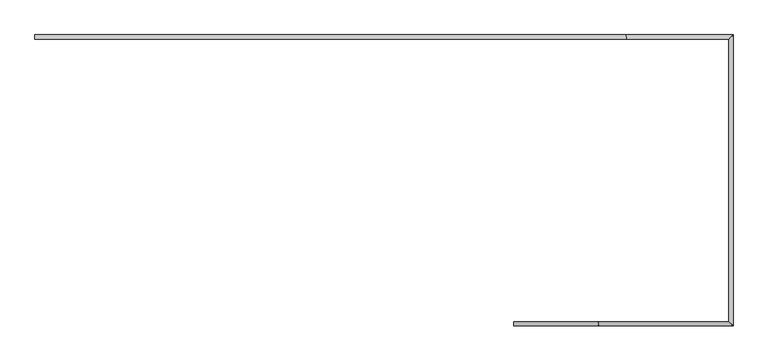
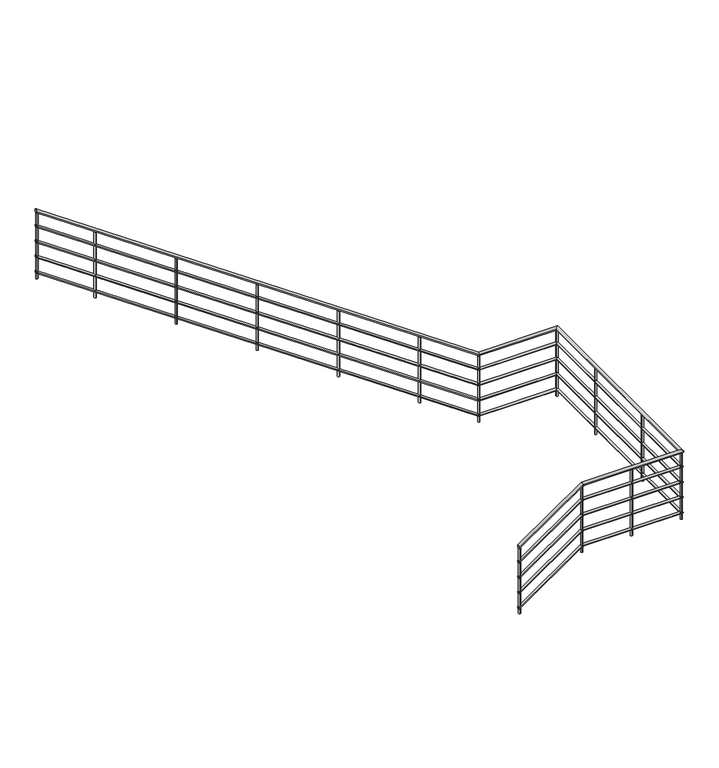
"""IFC4 building model written with IfcOpenShell, lengths in millimetres: railing geometry, r パイプ H900."""

from ifc_helpers import new_model, si_unit, point, frame, frame_2d, origin, place, context, project, spatial, circle_curve, ellipse_curve, trimmed, segment, composite_curve, outline, extrude, source, transform, mapped, element, save
from ifc_brep_helpers import plane_surface, cylinder_surface, advanced_brep


def railing_1d44057c(model_context):
    return source(origin(), model_context, "Body", "SolidModel", [
        advanced_brep(
        [(-1975.9784025, 7544.6868987, 1155.6747872), (-1975.9784025, 7504.6868987, 1155.6747872), (-1189.7308729, 7544.6868987, 1700.0), (-1189.7308729, 7504.6868987, 1700.0), (9.0215975, 7544.6868987, 1700.0), (49.0215975, 7504.6868987, 1700.0), (9.0215975, 10154.6868987, 1700.0), (49.0215975, 10194.6868987, 1700.0), (-942.2259321, 10154.6868987, 1700.0), (-942.2259321, 10194.6868987, 1700.0), (-6395.9784025, 10154.6868987, 5475.6747872), (-6395.9784025, 10194.6868987, 5475.6747872)],
        [
            (0, 1, ellipse_curve(frame((-1975.9784025, 7524.6868987, 1155.6747872), z_axis=(-1.0, 0.0, 0.0), x_axis=(0.0, 0.0, -1.0)), 24.3252128, 20.0)),
            (1, 0, ellipse_curve(frame((-1975.9784025, 7524.6868987, 1155.6747872), z_axis=(-1.0, 0.0, 0.0), x_axis=(0.0, 0.0, -1.0)), 24.3252128, 20.0)),
            (0, 2),
            (2, 3, ellipse_curve(frame((-1189.7308729, 7524.6868987, 1700.0), z_axis=(-0.9545135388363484, 0.0, -0.2981675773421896), x_axis=(0.2981675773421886, 0.0, -0.9545135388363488)), 20.9530815, 20.0)),
            (3, 1),
            (3, 2, ellipse_curve(frame((-1189.7308729, 7524.6868987, 1700.0), z_axis=(-0.9545135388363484, 0.0, -0.2981675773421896), x_axis=(0.2981675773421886, 0.0, -0.9545135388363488)), 20.9530815, 20.0)),
            (2, 4),
            (4, 5, ellipse_curve(frame((29.0215975, 7524.6868987, 1700.0), z_axis=(-0.7071067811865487, -0.7071067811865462, 0.0), x_axis=(-0.7071067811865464, 0.7071067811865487, 0.0)), 28.2842712, 20.0)),
            (5, 3),
            (5, 4, ellipse_curve(frame((29.0215975, 7524.6868987, 1700.0), z_axis=(-0.7071067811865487, -0.7071067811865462, 0.0), x_axis=(-0.7071067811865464, 0.7071067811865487, 0.0)), 28.2842712, 20.0)),
            (4, 6),
            (6, 7, ellipse_curve(frame((29.0215975, 10174.6868987, 1700.0), z_axis=(0.7071067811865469, -0.707106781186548, 0.0), x_axis=(-0.7071067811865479, -0.7071067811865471, 0.0)), 28.2842712, 20.0)),
            (7, 5),
            (7, 6, ellipse_curve(frame((29.0215975, 10174.6868987, 1700.0), z_axis=(0.7071067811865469, -0.707106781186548, 0.0), x_axis=(-0.7071067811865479, -0.7071067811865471, 0.0)), 28.2842712, 20.0)),
            (6, 8),
            (8, 9, ellipse_curve(frame((-942.2259321, 10174.6868987, 1700.0), z_axis=(0.9545135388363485, 0.0, -0.2981675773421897), x_axis=(0.29816757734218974, 0.0, 0.9545135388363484)), 20.9530815, 20.0)),
            (9, 7),
            (9, 8, ellipse_curve(frame((-942.2259321, 10174.6868987, 1700.0), z_axis=(0.9545135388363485, 0.0, -0.2981675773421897), x_axis=(0.29816757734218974, 0.0, 0.9545135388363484)), 20.9530815, 20.0)),
            (10, 11, ellipse_curve(frame((-6395.9784025, 10174.6868987, 5475.6747872), z_axis=(-1.0, 0.0, 0.0), x_axis=(0.0, 0.0, -1.0)), 24.3252128, 20.0)),
            (11, 10, ellipse_curve(frame((-6395.9784025, 10174.6868987, 5475.6747872), z_axis=(-1.0, 0.0, 0.0), x_axis=(0.0, 0.0, -1.0)), 24.3252128, 20.0)),
            (8, 10),
            (11, 9),
        ],
        [
            plane_surface(frame((-1975.9784025, 7524.6868987, 1180.0), z_axis=(-1.0, 0.0, 0.0), x_axis=(0.0, 1.0, 0.0))),
            cylinder_surface(frame((-1964.5942029, 7524.6868987, 1163.5561562), z_axis=(-0.8221921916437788, 0.0, -0.5692099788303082), x_axis=(0.0, -1.0, 0.0)), 20.0),
            cylinder_surface(frame((-1195.9784025, 7524.6868987, 1700.0), z_axis=(-1.0, 0.0, 0.0), x_axis=(0.0, -1.0, 0.0)), 20.0),
            cylinder_surface(frame((29.0215975, 7524.6868987, 1700.0), z_axis=(0.0, -1.0, 0.0), x_axis=(1.0, 0.0, 0.0)), 20.0),
            cylinder_surface(frame((29.0215975, 10174.6868987, 1700.0), z_axis=(1.0, 0.0, 0.0), x_axis=(0.0, 1.0, 0.0)), 20.0),
            plane_surface(frame((-6395.9784025, 10174.6868987, 5500.0), z_axis=(-1.0, 0.0, 0.0), x_axis=(0.0, -1.0, 0.0))),
            cylinder_surface(frame((-947.3626021, 10174.6868987, 1703.5561562), z_axis=(0.8221921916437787, 0.0, -0.5692099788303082), x_axis=(0.0, 1.0, 0.0)), 20.0),
        ],
        [
            (0, [[1, 2]]),
            (1, [[-1, 3, 4, 5]]),
            (1, [[-2, -5, 6, -3]]),
            (2, [[-4, 7, 8, 9]]),
            (2, [[-6, -9, 10, -7]]),
            (3, [[-8, 11, 12, 13]]),
            (3, [[-10, -13, 14, -11]]),
            (4, [[-12, 15, 16, 17]]),
            (4, [[-14, -17, 18, -15]]),
            (5, [[19, 20]]),
            (6, [[-16, 21, -20, 22]]),
            (6, [[-18, -22, -19, -21]]),
        ],
    ),
        advanced_brep(
        [(-1975.9784025, 7539.6868987, 961.7560904), (-1975.9784025, 7509.6868987, 961.7560904), (-1191.2927553, 7539.6868987, 1505.0), (-1191.2927553, 7509.6868987, 1505.0), (14.0215975, 7539.6868987, 1505.0), (44.0215975, 7509.6868987, 1505.0), (14.0215975, 10159.6868987, 1505.0), (44.0215975, 10189.6868987, 1505.0), (-940.6640497, 10159.6868987, 1505.0), (-940.6640497, 10189.6868987, 1505.0), (-6395.9784025, 10159.6868987, 5281.7560904), (-6395.9784025, 10189.6868987, 5281.7560904)],
        [
            (0, 1, ellipse_curve(frame((-1975.9784025, 7524.6868987, 961.7560904), z_axis=(-1.0, 0.0, 0.0), x_axis=(0.0, 0.0, -1.0)), 18.2439096, 15.0)),
            (1, 0, ellipse_curve(frame((-1975.9784025, 7524.6868987, 961.7560904), z_axis=(-1.0, 0.0, 0.0), x_axis=(0.0, 0.0, -1.0)), 18.2439096, 15.0)),
            (0, 2),
            (2, 3, ellipse_curve(frame((-1191.2927553, 7524.6868987, 1505.0), z_axis=(-0.9545135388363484, 0.0, -0.2981675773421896), x_axis=(0.2981675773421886, 0.0, -0.9545135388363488)), 15.7148111, 15.0)),
            (3, 1),
            (3, 2, ellipse_curve(frame((-1191.2927553, 7524.6868987, 1505.0), z_axis=(-0.9545135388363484, 0.0, -0.2981675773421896), x_axis=(0.2981675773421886, 0.0, -0.9545135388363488)), 15.7148111, 15.0)),
            (2, 4),
            (4, 5, ellipse_curve(frame((29.0215975, 7524.6868987, 1505.0), z_axis=(-0.7071067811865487, -0.7071067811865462, 0.0), x_axis=(-0.7071067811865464, 0.7071067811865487, 0.0)), 21.2132034, 15.0)),
            (5, 3),
            (5, 4, ellipse_curve(frame((29.0215975, 7524.6868987, 1505.0), z_axis=(-0.7071067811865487, -0.7071067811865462, 0.0), x_axis=(-0.7071067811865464, 0.7071067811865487, 0.0)), 21.2132034, 15.0)),
            (4, 6),
            (6, 7, ellipse_curve(frame((29.0215975, 10174.6868987, 1505.0), z_axis=(0.7071067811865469, -0.707106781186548, 0.0), x_axis=(-0.7071067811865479, -0.7071067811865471, 0.0)), 21.2132034, 15.0)),
            (7, 5),
            (7, 6, ellipse_curve(frame((29.0215975, 10174.6868987, 1505.0), z_axis=(0.7071067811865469, -0.707106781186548, 0.0), x_axis=(-0.7071067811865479, -0.7071067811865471, 0.0)), 21.2132034, 15.0)),
            (6, 8),
            (8, 9, ellipse_curve(frame((-940.6640497, 10174.6868987, 1505.0), z_axis=(0.9545135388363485, 0.0, -0.2981675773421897), x_axis=(0.29816757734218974, 0.0, 0.9545135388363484)), 15.7148111, 15.0)),
            (9, 7),
            (9, 8, ellipse_curve(frame((-940.6640497, 10174.6868987, 1505.0), z_axis=(0.9545135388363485, 0.0, -0.2981675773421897), x_axis=(0.29816757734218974, 0.0, 0.9545135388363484)), 15.7148111, 15.0)),
            (10, 11, ellipse_curve(frame((-6395.9784025, 10174.6868987, 5281.7560904), z_axis=(-1.0, 0.0, 0.0), x_axis=(0.0, 0.0, -1.0)), 18.2439096, 15.0)),
            (11, 10, ellipse_curve(frame((-6395.9784025, 10174.6868987, 5281.7560904), z_axis=(-1.0, 0.0, 0.0), x_axis=(0.0, 0.0, -1.0)), 18.2439096, 15.0)),
            (8, 10),
            (11, 9),
        ],
        [
            plane_surface(frame((-1975.9784025, 7524.6868987, 980.0), z_axis=(-1.0, 0.0, 0.0), x_axis=(0.0, 1.0, 0.0))),
            cylinder_surface(frame((-1967.4402528, 7524.6868987, 967.6671171), z_axis=(-0.8221921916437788, 0.0, -0.5692099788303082), x_axis=(0.0, -1.0, 0.0)), 15.0),
            cylinder_surface(frame((-1195.9784025, 7524.6868987, 1505.0), z_axis=(-1.0, 0.0, 0.0), x_axis=(0.0, -1.0, 0.0)), 15.0),
            cylinder_surface(frame((29.0215975, 7524.6868987, 1505.0), z_axis=(0.0, -1.0, 0.0), x_axis=(1.0, 0.0, 0.0)), 15.0),
            cylinder_surface(frame((29.0215975, 10174.6868987, 1505.0), z_axis=(1.0, 0.0, 0.0), x_axis=(0.0, 1.0, 0.0)), 15.0),
            plane_surface(frame((-6395.9784025, 10174.6868987, 5300.0), z_axis=(-1.0, 0.0, 0.0), x_axis=(0.0, -1.0, 0.0))),
            cylinder_surface(frame((-944.5165522, 10174.6868987, 1507.6671171), z_axis=(0.8221921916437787, 0.0, -0.5692099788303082), x_axis=(0.0, 1.0, 0.0)), 15.0),
        ],
        [
            (0, [[1, 2]]),
            (1, [[-1, 3, 4, 5]]),
            (1, [[-2, -5, 6, -3]]),
            (2, [[-4, 7, 8, 9]]),
            (2, [[-6, -9, 10, -7]]),
            (3, [[-8, 11, 12, 13]]),
            (3, [[-10, -13, 14, -11]]),
            (4, [[-12, 15, 16, 17]]),
            (4, [[-14, -17, 18, -15]]),
            (5, [[19, 20]]),
            (6, [[-16, 21, -20, 22]]),
            (6, [[-18, -22, -19, -21]]),
        ],
    ),
        advanced_brep(
        [(-1975.9784025, 7539.6868987, 761.7560904), (-1975.9784025, 7509.6868987, 761.7560904), (-1191.2927553, 7539.6868987, 1305.0), (-1191.2927553, 7509.6868987, 1305.0), (14.0215975, 7539.6868987, 1305.0), (44.0215975, 7509.6868987, 1305.0), (14.0215975, 10159.6868987, 1305.0), (44.0215975, 10189.6868987, 1305.0), (-940.6640497, 10159.6868987, 1305.0), (-940.6640497, 10189.6868987, 1305.0), (-6395.9784025, 10159.6868987, 5081.7560904), (-6395.9784025, 10189.6868987, 5081.7560904)],
        [
            (0, 1, ellipse_curve(frame((-1975.9784025, 7524.6868987, 761.7560904), z_axis=(-1.0, 0.0, 0.0), x_axis=(0.0, 0.0, -1.0)), 18.2439096, 15.0)),
            (1, 0, ellipse_curve(frame((-1975.9784025, 7524.6868987, 761.7560904), z_axis=(-1.0, 0.0, 0.0), x_axis=(0.0, 0.0, -1.0)), 18.2439096, 15.0)),
            (0, 2),
            (2, 3, ellipse_curve(frame((-1191.2927553, 7524.6868987, 1305.0), z_axis=(-0.9545135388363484, 0.0, -0.2981675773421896), x_axis=(0.2981675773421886, 0.0, -0.9545135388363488)), 15.7148111, 15.0)),
            (3, 1),
            (3, 2, ellipse_curve(frame((-1191.2927553, 7524.6868987, 1305.0), z_axis=(-0.9545135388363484, 0.0, -0.2981675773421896), x_axis=(0.2981675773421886, 0.0, -0.9545135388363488)), 15.7148111, 15.0)),
            (2, 4),
            (4, 5, ellipse_curve(frame((29.0215975, 7524.6868987, 1305.0), z_axis=(-0.7071067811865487, -0.7071067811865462, 0.0), x_axis=(-0.7071067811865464, 0.7071067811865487, 0.0)), 21.2132034, 15.0)),
            (5, 3),
            (5, 4, ellipse_curve(frame((29.0215975, 7524.6868987, 1305.0), z_axis=(-0.7071067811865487, -0.7071067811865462, 0.0), x_axis=(-0.7071067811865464, 0.7071067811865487, 0.0)), 21.2132034, 15.0)),
            (4, 6),
            (6, 7, ellipse_curve(frame((29.0215975, 10174.6868987, 1305.0), z_axis=(0.7071067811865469, -0.707106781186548, 0.0), x_axis=(-0.7071067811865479, -0.7071067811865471, 0.0)), 21.2132034, 15.0)),
            (7, 5),
            (7, 6, ellipse_curve(frame((29.0215975, 10174.6868987, 1305.0), z_axis=(0.7071067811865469, -0.707106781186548, 0.0), x_axis=(-0.7071067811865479, -0.7071067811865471, 0.0)), 21.2132034, 15.0)),
            (6, 8),
            (8, 9, ellipse_curve(frame((-940.6640497, 10174.6868987, 1305.0), z_axis=(0.9545135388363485, 0.0, -0.2981675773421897), x_axis=(0.29816757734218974, 0.0, 0.9545135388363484)), 15.7148111, 15.0)),
            (9, 7),
            (9, 8, ellipse_curve(frame((-940.6640497, 10174.6868987, 1305.0), z_axis=(0.9545135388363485, 0.0, -0.2981675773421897), x_axis=(0.29816757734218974, 0.0, 0.9545135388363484)), 15.7148111, 15.0)),
            (10, 11, ellipse_curve(frame((-6395.9784025, 10174.6868987, 5081.7560904), z_axis=(-1.0, 0.0, 0.0), x_axis=(0.0, 0.0, -1.0)), 18.2439096, 15.0)),
            (11, 10, ellipse_curve(frame((-6395.9784025, 10174.6868987, 5081.7560904), z_axis=(-1.0, 0.0, 0.0), x_axis=(0.0, 0.0, -1.0)), 18.2439096, 15.0)),
            (8, 10),
            (11, 9),
        ],
        [
            plane_surface(frame((-1975.9784025, 7524.6868987, 780.0), z_axis=(-1.0, 0.0, 0.0), x_axis=(0.0, 1.0, 0.0))),
            cylinder_surface(frame((-1967.4402528, 7524.6868987, 767.6671171), z_axis=(-0.8221921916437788, 0.0, -0.5692099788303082), x_axis=(0.0, -1.0, 0.0)), 15.0),
            cylinder_surface(frame((-1195.9784025, 7524.6868987, 1305.0), z_axis=(-1.0, 0.0, 0.0), x_axis=(0.0, -1.0, 0.0)), 15.0),
            cylinder_surface(frame((29.0215975, 7524.6868987, 1305.0), z_axis=(0.0, -1.0, 0.0), x_axis=(1.0, 0.0, 0.0)), 15.0),
            cylinder_surface(frame((29.0215975, 10174.6868987, 1305.0), z_axis=(1.0, 0.0, 0.0), x_axis=(0.0, 1.0, 0.0)), 15.0),
            plane_surface(frame((-6395.9784025, 10174.6868987, 5100.0), z_axis=(-1.0, 0.0, 0.0), x_axis=(0.0, -1.0, 0.0))),
            cylinder_surface(frame((-944.5165522, 10174.6868987, 1307.6671171), z_axis=(0.8221921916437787, 0.0, -0.5692099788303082), x_axis=(0.0, 1.0, 0.0)), 15.0),
        ],
        [
            (0, [[1, 2]]),
            (1, [[-1, 3, 4, 5]]),
            (1, [[-2, -5, 6, -3]]),
            (2, [[-4, 7, 8, 9]]),
            (2, [[-6, -9, 10, -7]]),
            (3, [[-8, 11, 12, 13]]),
            (3, [[-10, -13, 14, -11]]),
            (4, [[-12, 15, 16, 17]]),
            (4, [[-14, -17, 18, -15]]),
            (5, [[19, 20]]),
            (6, [[-16, 21, -20, 22]]),
            (6, [[-18, -22, -19, -21]]),
        ],
    ),
        advanced_brep(
        [(-1975.9784025, 7539.6868987, 561.7560904), (-1975.9784025, 7509.6868987, 561.7560904), (-1191.2927553, 7539.6868987, 1105.0), (-1191.2927553, 7509.6868987, 1105.0), (14.0215975, 7539.6868987, 1105.0), (44.0215975, 7509.6868987, 1105.0), (14.0215975, 10159.6868987, 1105.0), (44.0215975, 10189.6868987, 1105.0), (-940.6640497, 10159.6868987, 1105.0), (-940.6640497, 10189.6868987, 1105.0), (-6395.9784025, 10159.6868987, 4881.7560904), (-6395.9784025, 10189.6868987, 4881.7560904)],
        [
            (0, 1, ellipse_curve(frame((-1975.9784025, 7524.6868987, 561.7560904), z_axis=(-1.0, 0.0, 0.0), x_axis=(0.0, 0.0, -1.0)), 18.2439096, 15.0)),
            (1, 0, ellipse_curve(frame((-1975.9784025, 7524.6868987, 561.7560904), z_axis=(-1.0, 0.0, 0.0), x_axis=(0.0, 0.0, -1.0)), 18.2439096, 15.0)),
            (0, 2),
            (2, 3, ellipse_curve(frame((-1191.2927553, 7524.6868987, 1105.0), z_axis=(-0.9545135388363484, 0.0, -0.2981675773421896), x_axis=(0.2981675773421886, 0.0, -0.9545135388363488)), 15.7148111, 15.0)),
            (3, 1),
            (3, 2, ellipse_curve(frame((-1191.2927553, 7524.6868987, 1105.0), z_axis=(-0.9545135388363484, 0.0, -0.2981675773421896), x_axis=(0.2981675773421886, 0.0, -0.9545135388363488)), 15.7148111, 15.0)),
            (2, 4),
            (4, 5, ellipse_curve(frame((29.0215975, 7524.6868987, 1105.0), z_axis=(-0.7071067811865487, -0.7071067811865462, 0.0), x_axis=(-0.7071067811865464, 0.7071067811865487, 0.0)), 21.2132034, 15.0)),
            (5, 3),
            (5, 4, ellipse_curve(frame((29.0215975, 7524.6868987, 1105.0), z_axis=(-0.7071067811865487, -0.7071067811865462, 0.0), x_axis=(-0.7071067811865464, 0.7071067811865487, 0.0)), 21.2132034, 15.0)),
            (4, 6),
            (6, 7, ellipse_curve(frame((29.0215975, 10174.6868987, 1105.0), z_axis=(0.7071067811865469, -0.707106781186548, 0.0), x_axis=(-0.7071067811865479, -0.7071067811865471, 0.0)), 21.2132034, 15.0)),
            (7, 5),
            (7, 6, ellipse_curve(frame((29.0215975, 10174.6868987, 1105.0), z_axis=(0.7071067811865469, -0.707106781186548, 0.0), x_axis=(-0.7071067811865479, -0.7071067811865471, 0.0)), 21.2132034, 15.0)),
            (6, 8),
            (8, 9, ellipse_curve(frame((-940.6640497, 10174.6868987, 1105.0), z_axis=(0.9545135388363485, 0.0, -0.2981675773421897), x_axis=(0.29816757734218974, 0.0, 0.9545135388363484)), 15.7148111, 15.0)),
            (9, 7),
            (9, 8, ellipse_curve(frame((-940.6640497, 10174.6868987, 1105.0), z_axis=(0.9545135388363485, 0.0, -0.2981675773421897), x_axis=(0.29816757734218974, 0.0, 0.9545135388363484)), 15.7148111, 15.0)),
            (10, 11, ellipse_curve(frame((-6395.9784025, 10174.6868987, 4881.7560904), z_axis=(-1.0, 0.0, 0.0), x_axis=(0.0, 0.0, -1.0)), 18.2439096, 15.0)),
            (11, 10, ellipse_curve(frame((-6395.9784025, 10174.6868987, 4881.7560904), z_axis=(-1.0, 0.0, 0.0), x_axis=(0.0, 0.0, -1.0)), 18.2439096, 15.0)),
            (8, 10),
            (11, 9),
        ],
        [
            plane_surface(frame((-1975.9784025, 7524.6868987, 580.0), z_axis=(-1.0, 0.0, 0.0), x_axis=(0.0, 1.0, 0.0))),
            cylinder_surface(frame((-1967.4402528, 7524.6868987, 567.6671171), z_axis=(-0.8221921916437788, 0.0, -0.5692099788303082), x_axis=(0.0, -1.0, 0.0)), 15.0),
            cylinder_surface(frame((-1195.9784025, 7524.6868987, 1105.0), z_axis=(-1.0, 0.0, 0.0), x_axis=(0.0, -1.0, 0.0)), 15.0),
            cylinder_surface(frame((29.0215975, 7524.6868987, 1105.0), z_axis=(0.0, -1.0, 0.0), x_axis=(1.0, 0.0, 0.0)), 15.0),
            cylinder_surface(frame((29.0215975, 10174.6868987, 1105.0), z_axis=(1.0, 0.0, 0.0), x_axis=(0.0, 1.0, 0.0)), 15.0),
            plane_surface(frame((-6395.9784025, 10174.6868987, 4900.0), z_axis=(-1.0, 0.0, 0.0), x_axis=(0.0, -1.0, 0.0))),
            cylinder_surface(frame((-944.5165522, 10174.6868987, 1107.6671171), z_axis=(0.8221921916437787, 0.0, -0.5692099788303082), x_axis=(0.0, 1.0, 0.0)), 15.0),
        ],
        [
            (0, [[1, 2]]),
            (1, [[-1, 3, 4, 5]]),
            (1, [[-2, -5, 6, -3]]),
            (2, [[-4, 7, 8, 9]]),
            (2, [[-6, -9, 10, -7]]),
            (3, [[-8, 11, 12, 13]]),
            (3, [[-10, -13, 14, -11]]),
            (4, [[-12, 15, 16, 17]]),
            (4, [[-14, -17, 18, -15]]),
            (5, [[19, 20]]),
            (6, [[-16, 21, -20, 22]]),
            (6, [[-18, -22, -19, -21]]),
        ],
    ),
        advanced_brep(
        [(-1975.9784025, 7539.6868987, 361.7560904), (-1975.9784025, 7509.6868987, 361.7560904), (-1191.2927553, 7539.6868987, 905.0), (-1191.2927553, 7509.6868987, 905.0), (14.0215975, 7539.6868987, 905.0), (44.0215975, 7509.6868987, 905.0), (14.0215975, 10159.6868987, 905.0), (44.0215975, 10189.6868987, 905.0), (-940.6640497, 10159.6868987, 905.0), (-940.6640497, 10189.6868987, 905.0), (-6395.9784025, 10159.6868987, 4681.7560904), (-6395.9784025, 10189.6868987, 4681.7560904)],
        [
            (0, 1, ellipse_curve(frame((-1975.9784025, 7524.6868987, 361.7560904), z_axis=(-1.0, 0.0, 0.0), x_axis=(0.0, 0.0, -1.0)), 18.2439096, 15.0)),
            (1, 0, ellipse_curve(frame((-1975.9784025, 7524.6868987, 361.7560904), z_axis=(-1.0, 0.0, 0.0), x_axis=(0.0, 0.0, -1.0)), 18.2439096, 15.0)),
            (0, 2),
            (2, 3, ellipse_curve(frame((-1191.2927553, 7524.6868987, 905.0), z_axis=(-0.9545135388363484, 0.0, -0.2981675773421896), x_axis=(0.2981675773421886, 0.0, -0.9545135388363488)), 15.7148111, 15.0)),
            (3, 1),
            (3, 2, ellipse_curve(frame((-1191.2927553, 7524.6868987, 905.0), z_axis=(-0.9545135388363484, 0.0, -0.2981675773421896), x_axis=(0.2981675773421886, 0.0, -0.9545135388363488)), 15.7148111, 15.0)),
            (2, 4),
            (4, 5, ellipse_curve(frame((29.0215975, 7524.6868987, 905.0), z_axis=(-0.7071067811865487, -0.7071067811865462, 0.0), x_axis=(-0.7071067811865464, 0.7071067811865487, 0.0)), 21.2132034, 15.0)),
            (5, 3),
            (5, 4, ellipse_curve(frame((29.0215975, 7524.6868987, 905.0), z_axis=(-0.7071067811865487, -0.7071067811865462, 0.0), x_axis=(-0.7071067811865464, 0.7071067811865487, 0.0)), 21.2132034, 15.0)),
            (4, 6),
            (6, 7, ellipse_curve(frame((29.0215975, 10174.6868987, 905.0), z_axis=(0.7071067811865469, -0.707106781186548, 0.0), x_axis=(-0.7071067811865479, -0.7071067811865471, 0.0)), 21.2132034, 15.0)),
            (7, 5),
            (7, 6, ellipse_curve(frame((29.0215975, 10174.6868987, 905.0), z_axis=(0.7071067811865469, -0.707106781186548, 0.0), x_axis=(-0.7071067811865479, -0.7071067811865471, 0.0)), 21.2132034, 15.0)),
            (6, 8),
            (8, 9, ellipse_curve(frame((-940.6640497, 10174.6868987, 905.0), z_axis=(0.9545135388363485, 0.0, -0.2981675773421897), x_axis=(0.29816757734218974, 0.0, 0.9545135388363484)), 15.7148111, 15.0)),
            (9, 7),
            (9, 8, ellipse_curve(frame((-940.6640497, 10174.6868987, 905.0), z_axis=(0.9545135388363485, 0.0, -0.2981675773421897), x_axis=(0.29816757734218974, 0.0, 0.9545135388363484)), 15.7148111, 15.0)),
            (10, 11, ellipse_curve(frame((-6395.9784025, 10174.6868987, 4681.7560904), z_axis=(-1.0, 0.0, 0.0), x_axis=(0.0, 0.0, -1.0)), 18.2439096, 15.0)),
            (11, 10, ellipse_curve(frame((-6395.9784025, 10174.6868987, 4681.7560904), z_axis=(-1.0, 0.0, 0.0), x_axis=(0.0, 0.0, -1.0)), 18.2439096, 15.0)),
            (8, 10),
            (11, 9),
        ],
        [
            plane_surface(frame((-1975.9784025, 7524.6868987, 380.0), z_axis=(-1.0, 0.0, 0.0), x_axis=(0.0, 1.0, 0.0))),
            cylinder_surface(frame((-1967.4402528, 7524.6868987, 367.6671171), z_axis=(-0.8221921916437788, 0.0, -0.5692099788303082), x_axis=(0.0, -1.0, 0.0)), 15.0),
            cylinder_surface(frame((-1195.9784025, 7524.6868987, 905.0), z_axis=(-1.0, 0.0, 0.0), x_axis=(0.0, -1.0, 0.0)), 15.0),
            cylinder_surface(frame((29.0215975, 7524.6868987, 905.0), z_axis=(0.0, -1.0, 0.0), x_axis=(1.0, 0.0, 0.0)), 15.0),
            cylinder_surface(frame((29.0215975, 10174.6868987, 905.0), z_axis=(1.0, 0.0, 0.0), x_axis=(0.0, 1.0, 0.0)), 15.0),
            plane_surface(frame((-6395.9784025, 10174.6868987, 4700.0), z_axis=(-1.0, 0.0, 0.0), x_axis=(0.0, -1.0, 0.0))),
            cylinder_surface(frame((-944.5165522, 10174.6868987, 907.6671171), z_axis=(0.8221921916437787, 0.0, -0.5692099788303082), x_axis=(0.0, 1.0, 0.0)), 15.0),
        ],
        [
            (0, [[1, 2]]),
            (1, [[-1, 3, 4, 5]]),
            (1, [[-2, -5, 6, -3]]),
            (2, [[-4, 7, 8, 9]]),
            (2, [[-6, -9, 10, -7]]),
            (3, [[-8, 11, 12, 13]]),
            (3, [[-10, -13, 14, -11]]),
            (4, [[-12, 15, 16, 17]]),
            (4, [[-14, -17, 18, -15]]),
            (5, [[19, 20]]),
            (6, [[-16, 21, -20, 22]]),
            (6, [[-18, -22, -19, -21]]),
        ],
    ),
        advanced_brep(
        [(-5665.9784025, 10187.1868987, 4945.9649591), (-5665.9784025, 10187.1868987, 4094.6153846), (-5665.9784025, 10162.1868987, 4094.6153846), (-5665.9784025, 10162.1868987, 4945.9649591)],
        [
            (0, 1),
            (1, 2, circle_curve(frame((-5665.9784025, 10174.6868987, 4094.6153846), z_axis=(0.0, 0.0, 1.0), x_axis=(0.0, -1.0, 0.0)), 12.5)),
            (2, 3),
            (3, 0, ellipse_curve(frame((-5665.9784025, 10174.6868987, 4945.9649591), z_axis=(-0.569209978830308, 0.0, -0.8221921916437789), x_axis=(-0.8221921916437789, 0.0, 0.5692099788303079)), 15.203258, 12.5)),
            (0, 3, ellipse_curve(frame((-5665.9784025, 10174.6868987, 4945.9649591), z_axis=(-0.569209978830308, 0.0, -0.8221921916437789), x_axis=(-0.8221921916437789, 0.0, 0.5692099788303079)), 15.203258, 12.5)),
            (2, 1, circle_curve(frame((-5665.9784025, 10174.6868987, 4094.6153846), z_axis=(0.0, 0.0, 1.0), x_axis=(0.0, -1.0, 0.0)), 12.5)),
        ],
        [
            cylinder_surface(frame((-5665.9784025, 10174.6868987, 3994.6153846), z_axis=(0.0, 0.0, 1.0), x_axis=(0.0, -1.0, 0.0)), 12.5),
            plane_surface(frame((-5690.9784025, 10149.6868987, 4963.2726514), z_axis=(0.569209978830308, 0.0, 0.8221921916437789), x_axis=(0.0, 1.0, 0.0))),
            plane_surface(frame((-5640.9784025, 10149.6868987, 4094.6153846), z_axis=(0.0, 0.0, -1.0), x_axis=(0.0, 1.0, 0.0))),
        ],
        [
            (0, [[1, 2, 3, 4]]),
            (0, [[-1, 5, -3, 6]]),
            (1, [[-4, -5]]),
            (2, [[-2, -6]]),
        ],
    ),
        advanced_brep(
        [(-4665.9784025, 10187.1868987, 4253.6572668), (-4665.9784025, 10187.1868987, 3402.3076923), (-4665.9784025, 10162.1868987, 3402.3076923), (-4665.9784025, 10162.1868987, 4253.6572668)],
        [
            (0, 1),
            (1, 2, circle_curve(frame((-4665.9784025, 10174.6868987, 3402.3076923), z_axis=(0.0, 0.0, 1.0), x_axis=(0.0, -1.0, 0.0)), 12.5)),
            (2, 3),
            (3, 0, ellipse_curve(frame((-4665.9784025, 10174.6868987, 4253.6572668), z_axis=(-0.569209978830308, 0.0, -0.8221921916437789), x_axis=(-0.8221921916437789, 0.0, 0.5692099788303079)), 15.203258, 12.5)),
            (0, 3, ellipse_curve(frame((-4665.9784025, 10174.6868987, 4253.6572668), z_axis=(-0.569209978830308, 0.0, -0.8221921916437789), x_axis=(-0.8221921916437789, 0.0, 0.5692099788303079)), 15.203258, 12.5)),
            (2, 1, circle_curve(frame((-4665.9784025, 10174.6868987, 3402.3076923), z_axis=(0.0, 0.0, 1.0), x_axis=(0.0, -1.0, 0.0)), 12.5)),
        ],
        [
            cylinder_surface(frame((-4665.9784025, 10174.6868987, 3302.3076923), z_axis=(0.0, 0.0, 1.0), x_axis=(0.0, -1.0, 0.0)), 12.5),
            plane_surface(frame((-4690.9784025, 10149.6868987, 4270.9649591), z_axis=(0.569209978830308, 0.0, 0.8221921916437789), x_axis=(0.0, 1.0, 0.0))),
            plane_surface(frame((-4640.9784025, 10149.6868987, 3402.3076923), z_axis=(0.0, 0.0, -1.0), x_axis=(0.0, 1.0, 0.0))),
        ],
        [
            (0, [[1, 2, 3, 4]]),
            (0, [[-1, 5, -3, 6]]),
            (1, [[-4, -5]]),
            (2, [[-2, -6]]),
        ],
    ),
        advanced_brep(
        [(-3665.9784025, 10187.1868987, 3561.3495745), (-3665.9784025, 10187.1868987, 2710.0), (-3665.9784025, 10162.1868987, 2710.0), (-3665.9784025, 10162.1868987, 3561.3495745)],
        [
            (0, 1),
            (1, 2, circle_curve(frame((-3665.9784025, 10174.6868987, 2710.0), z_axis=(0.0, 0.0, 1.0), x_axis=(0.0, -1.0, 0.0)), 12.5)),
            (2, 3),
            (3, 0, ellipse_curve(frame((-3665.9784025, 10174.6868987, 3561.3495745), z_axis=(-0.569209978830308, 0.0, -0.8221921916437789), x_axis=(-0.8221921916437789, 0.0, 0.5692099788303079)), 15.203258, 12.5)),
            (0, 3, ellipse_curve(frame((-3665.9784025, 10174.6868987, 3561.3495745), z_axis=(-0.569209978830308, 0.0, -0.8221921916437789), x_axis=(-0.8221921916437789, 0.0, 0.5692099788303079)), 15.203258, 12.5)),
            (2, 1, circle_curve(frame((-3665.9784025, 10174.6868987, 2710.0), z_axis=(0.0, 0.0, 1.0), x_axis=(0.0, -1.0, 0.0)), 12.5)),
        ],
        [
            cylinder_surface(frame((-3665.9784025, 10174.6868987, 2610.0), z_axis=(0.0, 0.0, 1.0), x_axis=(0.0, -1.0, 0.0)), 12.5),
            plane_surface(frame((-3690.9784025, 10149.6868987, 3578.6572668), z_axis=(0.569209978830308, 0.0, 0.8221921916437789), x_axis=(0.0, 1.0, 0.0))),
            plane_surface(frame((-3640.9784025, 10149.6868987, 2710.0), z_axis=(0.0, 0.0, -1.0), x_axis=(0.0, 1.0, 0.0))),
        ],
        [
            (0, [[1, 2, 3, 4]]),
            (0, [[-1, 5, -3, 6]]),
            (1, [[-4, -5]]),
            (2, [[-2, -6]]),
        ],
    ),
        advanced_brep(
        [(-2665.9784025, 10187.1868987, 2869.0418822), (-2665.9784025, 10187.1868987, 2017.6923077), (-2665.9784025, 10162.1868987, 2017.6923077), (-2665.9784025, 10162.1868987, 2869.0418822)],
        [
            (0, 1),
            (1, 2, circle_curve(frame((-2665.9784025, 10174.6868987, 2017.6923077), z_axis=(0.0, 0.0, 1.0), x_axis=(0.0, -1.0, 0.0)), 12.5)),
            (2, 3),
            (3, 0, ellipse_curve(frame((-2665.9784025, 10174.6868987, 2869.0418822), z_axis=(-0.569209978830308, 0.0, -0.8221921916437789), x_axis=(-0.8221921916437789, 0.0, 0.5692099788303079)), 15.203258, 12.5)),
            (0, 3, ellipse_curve(frame((-2665.9784025, 10174.6868987, 2869.0418822), z_axis=(-0.569209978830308, 0.0, -0.8221921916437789), x_axis=(-0.8221921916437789, 0.0, 0.5692099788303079)), 15.203258, 12.5)),
            (2, 1, circle_curve(frame((-2665.9784025, 10174.6868987, 2017.6923077), z_axis=(0.0, 0.0, 1.0), x_axis=(0.0, -1.0, 0.0)), 12.5)),
        ],
        [
            cylinder_surface(frame((-2665.9784025, 10174.6868987, 1917.6923077), z_axis=(0.0, 0.0, 1.0), x_axis=(0.0, -1.0, 0.0)), 12.5),
            plane_surface(frame((-2690.9784025, 10149.6868987, 2886.3495745), z_axis=(0.569209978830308, 0.0, 0.8221921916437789), x_axis=(0.0, 1.0, 0.0))),
            plane_surface(frame((-2640.9784025, 10149.6868987, 2017.6923077), z_axis=(0.0, 0.0, -1.0), x_axis=(0.0, 1.0, 0.0))),
        ],
        [
            (0, [[1, 2, 3, 4]]),
            (0, [[-1, 5, -3, 6]]),
            (1, [[-4, -5]]),
            (2, [[-2, -6]]),
        ],
    ),
        advanced_brep(
        [(-1665.9784025, 10187.1868987, 2176.7341898), (-1665.9784025, 10187.1868987, 1325.3846154), (-1665.9784025, 10162.1868987, 1325.3846154), (-1665.9784025, 10162.1868987, 2176.7341898)],
        [
            (0, 1),
            (1, 2, circle_curve(frame((-1665.9784025, 10174.6868987, 1325.3846154), z_axis=(0.0, 0.0, 1.0), x_axis=(0.0, -1.0, 0.0)), 12.5)),
            (2, 3),
            (3, 0, ellipse_curve(frame((-1665.9784025, 10174.6868987, 2176.7341898), z_axis=(-0.569209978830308, 0.0, -0.8221921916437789), x_axis=(-0.8221921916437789, 0.0, 0.5692099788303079)), 15.203258, 12.5)),
            (0, 3, ellipse_curve(frame((-1665.9784025, 10174.6868987, 2176.7341898), z_axis=(-0.569209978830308, 0.0, -0.8221921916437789), x_axis=(-0.8221921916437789, 0.0, 0.5692099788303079)), 15.203258, 12.5)),
            (2, 1, circle_curve(frame((-1665.9784025, 10174.6868987, 1325.3846154), z_axis=(0.0, 0.0, 1.0), x_axis=(0.0, -1.0, 0.0)), 12.5)),
        ],
        [
            cylinder_surface(frame((-1665.9784025, 10174.6868987, 1225.3846154), z_axis=(0.0, 0.0, 1.0), x_axis=(0.0, -1.0, 0.0)), 12.5),
            plane_surface(frame((-1690.9784025, 10149.6868987, 2194.0418822), z_axis=(0.569209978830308, 0.0, 0.8221921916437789), x_axis=(0.0, 1.0, 0.0))),
            plane_surface(frame((-1640.9784025, 10149.6868987, 1325.3846154), z_axis=(0.0, 0.0, -1.0), x_axis=(0.0, 1.0, 0.0))),
        ],
        [
            (0, [[1, 2, 3, 4]]),
            (0, [[-1, 5, -3, 6]]),
            (1, [[-4, -5]]),
            (2, [[-2, -6]]),
        ],
    ),
        extrude(outline(composite_curve([segment(trimmed(circle_curve(frame_2d((29.0215975, 9349.6868987)), 12.5), [point((16.5215975, 9349.6868987))], [point((41.5215975, 9349.6868987))], False, "CARTESIAN"), True, "CONTINUOUS"), segment(trimmed(circle_curve(frame_2d((29.0215975, 9349.6868987)), 12.5), [point((41.5215975, 9349.6868987))], [point((16.5215975, 9349.6868987))], False, "CARTESIAN"), True, "CONTINUOUS")], self_intersect=False)), frame((0.0, 0.0, 820.0), z_axis=(0.0, 0.0, 1.0), x_axis=(1.0, 0.0, 0.0)), (0.0, 0.0, 1.0), 860.0),
        extrude(outline(composite_curve([segment(trimmed(circle_curve(frame_2d((29.0215975, 8349.6868987)), 12.5), [point((16.5215975, 8349.6868987))], [point((41.5215975, 8349.6868987))], False, "CARTESIAN"), True, "CONTINUOUS"), segment(trimmed(circle_curve(frame_2d((29.0215975, 8349.6868987)), 12.5), [point((41.5215975, 8349.6868987))], [point((16.5215975, 8349.6868987))], False, "CARTESIAN"), True, "CONTINUOUS")], self_intersect=False)), frame((0.0, 0.0, 820.0), z_axis=(0.0, 0.0, 1.0), x_axis=(1.0, 0.0, 0.0)), (0.0, 0.0, 1.0), 860.0),
        extrude(outline(composite_curve([segment(trimmed(circle_curve(frame_2d((-583.4784025, 7524.6868987)), 12.5), [point((-583.4784025, 7537.1868987))], [point((-583.4784025, 7512.1868987))], False, "CARTESIAN"), True, "CONTINUOUS"), segment(trimmed(circle_curve(frame_2d((-583.4784025, 7524.6868987)), 12.5), [point((-583.4784025, 7512.1868987))], [point((-583.4784025, 7537.1868987))], False, "CARTESIAN"), True, "CONTINUOUS")], self_intersect=False)), frame((0.0, 0.0, 820.0), z_axis=(0.0, 0.0, 1.0), x_axis=(1.0, 0.0, 0.0)), (0.0, 0.0, 1.0), 860.0),
        extrude(outline(composite_curve([segment(trimmed(circle_curve(frame_2d((-935.9784025, 10174.6868987)), 12.5), [point((-935.9784025, 10162.1868987))], [point((-935.9784025, 10187.1868987))], False, "CARTESIAN"), True, "CONTINUOUS"), segment(trimmed(circle_curve(frame_2d((-935.9784025, 10174.6868987)), 12.5), [point((-935.9784025, 10187.1868987))], [point((-935.9784025, 10162.1868987))], False, "CARTESIAN"), True, "CONTINUOUS")], self_intersect=False)), frame((0.0, 0.0, 820.0), z_axis=(0.0, 0.0, 1.0), x_axis=(1.0, 0.0, 0.0)), (0.0, 0.0, 1.0), 860.0),
        extrude(outline(composite_curve([segment(trimmed(circle_curve(frame_2d((29.0215975, 10174.6868987)), 12.5), [point((16.5215975, 10174.6868987))], [point((41.5215975, 10174.6868987))], False, "CARTESIAN"), True, "CONTINUOUS"), segment(trimmed(circle_curve(frame_2d((29.0215975, 10174.6868987)), 12.5), [point((41.5215975, 10174.6868987))], [point((16.5215975, 10174.6868987))], False, "CARTESIAN"), True, "CONTINUOUS")], self_intersect=False)), frame((0.0, 0.0, 820.0), z_axis=(0.0, 0.0, 1.0), x_axis=(1.0, 0.0, 0.0)), (0.0, 0.0, 1.0), 860.0),
        extrude(outline(composite_curve([segment(trimmed(circle_curve(frame_2d((29.0215975, 7524.6868987)), 12.5), [point((29.0215975, 7537.1868987))], [point((29.0215975, 7512.1868987))], False, "CARTESIAN"), True, "CONTINUOUS"), segment(trimmed(circle_curve(frame_2d((29.0215975, 7524.6868987)), 12.5), [point((29.0215975, 7512.1868987))], [point((29.0215975, 7537.1868987))], False, "CARTESIAN"), True, "CONTINUOUS")], self_intersect=False)), frame((0.0, 0.0, 820.0), z_axis=(0.0, 0.0, 1.0), x_axis=(1.0, 0.0, 0.0)), (0.0, 0.0, 1.0), 860.0),
        advanced_brep(
        [(-1195.9784025, 7512.1868987, 1671.3495745), (-1195.9784025, 7512.1868987, 820.0), (-1195.9784025, 7537.1868987, 820.0), (-1195.9784025, 7537.1868987, 1671.3495745)],
        [
            (0, 1),
            (1, 2, circle_curve(frame((-1195.9784025, 7524.6868987, 820.0), z_axis=(0.0, 0.0, 1.0), x_axis=(0.0, 1.0, 0.0)), 12.5)),
            (2, 3),
            (3, 0, ellipse_curve(frame((-1195.9784025, 7524.6868987, 1671.3495745), z_axis=(0.569209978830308, 0.0, -0.8221921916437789), x_axis=(0.8221921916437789, 0.0, 0.5692099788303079)), 15.203258, 12.5)),
            (0, 3, ellipse_curve(frame((-1195.9784025, 7524.6868987, 1671.3495745), z_axis=(0.569209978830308, 0.0, -0.8221921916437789), x_axis=(0.8221921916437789, 0.0, 0.5692099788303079)), 15.203258, 12.5)),
            (2, 1, circle_curve(frame((-1195.9784025, 7524.6868987, 820.0), z_axis=(0.0, 0.0, 1.0), x_axis=(0.0, 1.0, 0.0)), 12.5)),
        ],
        [
            cylinder_surface(frame((-1195.9784025, 7524.6868987, 720.0), z_axis=(0.0, 0.0, 1.0), x_axis=(0.0, 1.0, 0.0)), 12.5),
            plane_surface(frame((-1170.9784025, 7549.6868987, 1688.6572668), z_axis=(-0.569209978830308, 0.0, 0.8221921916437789), x_axis=(0.0, -1.0, 0.0))),
            plane_surface(frame((-1220.9784025, 7549.6868987, 820.0), z_axis=(0.0, 0.0, -1.0), x_axis=(0.0, -1.0, 0.0))),
        ],
        [
            (0, [[1, 2, 3, 4]]),
            (0, [[-1, 5, -3, 6]]),
            (1, [[-4, -5]]),
            (2, [[-2, -6]]),
        ],
    ),
        advanced_brep(
        [(-6383.7918036, 10187.1868987, 5442.9126983), (-6383.7918036, 10187.1868987, 4591.5631238), (-6383.7918036, 10162.1868987, 4591.5631238), (-6383.7918036, 10162.1868987, 5442.9126983)],
        [
            (0, 1),
            (1, 2, circle_curve(frame((-6383.7918036, 10174.6868987, 4591.5631238), z_axis=(0.0, 0.0, 1.0), x_axis=(0.0, -1.0, 0.0)), 12.5)),
            (2, 3),
            (3, 0, ellipse_curve(frame((-6383.7918036, 10174.6868987, 5442.9126983), z_axis=(-0.569209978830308, 0.0, -0.8221921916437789), x_axis=(-0.8221921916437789, 0.0, 0.5692099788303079)), 15.203258, 12.5)),
            (0, 3, ellipse_curve(frame((-6383.7918036, 10174.6868987, 5442.9126983), z_axis=(-0.569209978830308, 0.0, -0.8221921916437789), x_axis=(-0.8221921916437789, 0.0, 0.5692099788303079)), 15.203258, 12.5)),
            (2, 1, circle_curve(frame((-6383.7918036, 10174.6868987, 4591.5631238), z_axis=(0.0, 0.0, 1.0), x_axis=(0.0, -1.0, 0.0)), 12.5)),
        ],
        [
            cylinder_surface(frame((-6383.7918036, 10174.6868987, 4491.5631238), z_axis=(0.0, 0.0, 1.0), x_axis=(0.0, -1.0, 0.0)), 12.5),
            plane_surface(frame((-6408.7918036, 10149.6868987, 5460.2203906), z_axis=(0.569209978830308, 0.0, 0.8221921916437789), x_axis=(0.0, 1.0, 0.0))),
            plane_surface(frame((-6358.7918036, 10149.6868987, 4591.5631238), z_axis=(0.0, 0.0, -1.0), x_axis=(0.0, 1.0, 0.0))),
        ],
        [
            (0, [[1, 2, 3, 4]]),
            (0, [[-1, 5, -3, 6]]),
            (1, [[-4, -5]]),
            (2, [[-2, -6]]),
        ],
    ),
        advanced_brep(
        [(-1963.7918036, 7512.1868987, 1139.7864506), (-1963.7918036, 7512.1868987, 288.4368762), (-1963.7918036, 7537.1868987, 288.4368762), (-1963.7918036, 7537.1868987, 1139.7864506)],
        [
            (0, 1),
            (1, 2, circle_curve(frame((-1963.7918036, 7524.6868987, 288.4368762), z_axis=(0.0, 0.0, 1.0), x_axis=(0.0, 1.0, 0.0)), 12.5)),
            (2, 3),
            (3, 0, ellipse_curve(frame((-1963.7918036, 7524.6868987, 1139.7864506), z_axis=(0.569209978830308, 0.0, -0.8221921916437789), x_axis=(0.8221921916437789, 0.0, 0.5692099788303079)), 15.203258, 12.5)),
            (0, 3, ellipse_curve(frame((-1963.7918036, 7524.6868987, 1139.7864506), z_axis=(0.569209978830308, 0.0, -0.8221921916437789), x_axis=(0.8221921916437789, 0.0, 0.5692099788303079)), 15.203258, 12.5)),
            (2, 1, circle_curve(frame((-1963.7918036, 7524.6868987, 288.4368762), z_axis=(0.0, 0.0, 1.0), x_axis=(0.0, 1.0, 0.0)), 12.5)),
        ],
        [
            cylinder_surface(frame((-1963.7918036, 7524.6868987, 188.4368762), z_axis=(0.0, 0.0, 1.0), x_axis=(0.0, 1.0, 0.0)), 12.5),
            plane_surface(frame((-1938.7918036, 7549.6868987, 1157.0941429), z_axis=(-0.569209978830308, 0.0, 0.8221921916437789), x_axis=(0.0, -1.0, 0.0))),
            plane_surface(frame((-1988.7918036, 7549.6868987, 288.4368762), z_axis=(0.0, 0.0, -1.0), x_axis=(0.0, -1.0, 0.0))),
        ],
        [
            (0, [[1, 2, 3, 4]]),
            (0, [[-1, 5, -3, 6]]),
            (1, [[-4, -5]]),
            (2, [[-2, -6]]),
        ],
    ),
    ])


if __name__ == "__main__":
    model = new_model("IFC4")
    model_context = context("Model", 3, world=origin())
    ifc_project = project(units=[si_unit("LENGTHUNIT", "METRE", prefix="MILLI")], contexts=[model_context])
    site = spatial("IfcSite", under=ifc_project)
    building = spatial("IfcBuilding", under=site)
    placement = place(None, origin())
    railing_shape = railing_1d44057c(model_context)
    element("IfcRailing", 1, ObjectType="r パイプ H900", at=placement, inside=building, context=model_context, shape_type="MappedRepresentation", body=[
        mapped(railing_shape, transform((0.0, 0.0, 0.0), x_axis=(1.0, 0.0, 0.0), y_axis=(0.0, 1.0, 0.0), z_axis=(0.0, 0.0, 1.0))),
    ])
    save(model, "model.ifc")
